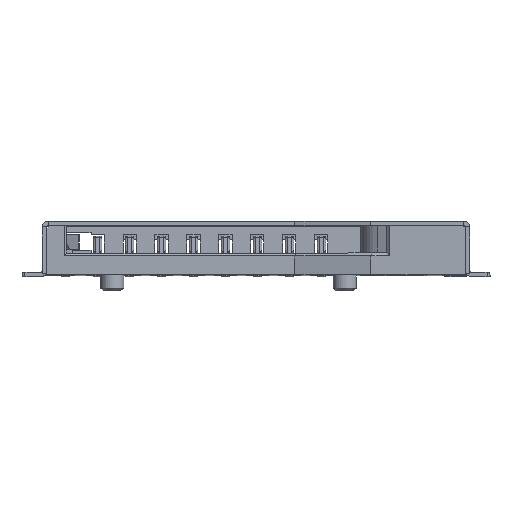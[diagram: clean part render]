
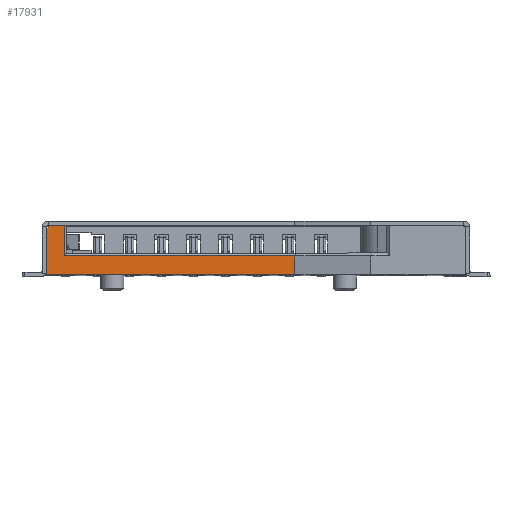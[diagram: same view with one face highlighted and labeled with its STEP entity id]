
A CAD part, top view. The second image highlights one B-rep face of the part: STEP entity #17931.
In plain terms, the highlighted planar face has unit normal (0, 0, 1).
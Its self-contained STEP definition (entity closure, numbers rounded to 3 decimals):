
#653 = LINE ( 'NONE', #9888, #50441 ) ;
#972 = VERTEX_POINT ( 'NONE', #29177 ) ;
#1125 = CARTESIAN_POINT ( 'NONE',  ( 1.338, -0.925, 6.8 ) ) ;
#2169 = LINE ( 'NONE', #35556, #18346 ) ;
#2174 = CARTESIAN_POINT ( 'NONE',  ( -7.1, 0.775, 6.8 ) ) ;
#3131 = VERTEX_POINT ( 'NONE', #39150 ) ;
#3430 = DIRECTION ( 'NONE',  ( -0.707, -0.707, 0. ) ) ;
#4421 = ORIENTED_EDGE ( 'NONE', *, *, #27609, .T. ) ;
#6401 = VERTEX_POINT ( 'NONE', #1125 ) ;
#7537 = CARTESIAN_POINT ( 'NONE',  ( -7.1, 0.775, 6.8 ) ) ;
#8218 = DIRECTION ( 'NONE',  ( 1., 0., 0. ) ) ;
#8930 = CARTESIAN_POINT ( 'NONE',  ( 0., -0.175, 6.8 ) ) ;
#9888 = CARTESIAN_POINT ( 'NONE',  ( -6.505, -0.275, 6.8 ) ) ;
#10378 = VERTEX_POINT ( 'NONE', #38897 ) ;
#11600 = ORIENTED_EDGE ( 'NONE', *, *, #14502, .T. ) ;
#11794 = ORIENTED_EDGE ( 'NONE', *, *, #19185, .T. ) ;
#14386 = DIRECTION ( 'NONE',  ( -1., 0., 0. ) ) ;
#14502 = EDGE_CURVE ( 'NONE', #3131, #33385, #653, .T. ) ;
#15729 = LINE ( 'NONE', #37877, #29134 ) ;
#16650 = DIRECTION ( 'NONE',  ( 0., -1., 0. ) ) ;
#17042 = ORIENTED_EDGE ( 'NONE', *, *, #26426, .T. ) ;
#17120 = VECTOR ( 'NONE', #46379, 1000. ) ;
#17931 = ADVANCED_FACE ( 'NONE', ( #36143 ), #51651, .F. ) ;
#18027 = LINE ( 'NONE', #24689, #40227 ) ;
#18346 = VECTOR ( 'NONE', #35366, 1000. ) ;
#19185 = EDGE_CURVE ( 'NONE', #33385, #972, #44060, .T. ) ;
#19661 = EDGE_CURVE ( 'NONE', #44406, #46638, #41171, .T. ) ;
#20304 = CARTESIAN_POINT ( 'NONE',  ( -7.2, 0.675, 6.8 ) ) ;
#22508 = LINE ( 'NONE', #37900, #17120 ) ;
#24689 = CARTESIAN_POINT ( 'NONE',  ( -7.2, -0.175, 6.8 ) ) ;
#25078 = VECTOR ( 'NONE', #3430, 1000. ) ;
#26426 = EDGE_CURVE ( 'NONE', #46638, #10378, #18027, .T. ) ;
#27609 = EDGE_CURVE ( 'NONE', #10378, #6401, #15729, .T. ) ;
#27820 = EDGE_CURVE ( 'NONE', #3131, #6401, #2169, .T. ) ;
#29134 = VECTOR ( 'NONE', #8218, 1000. ) ;
#29177 = CARTESIAN_POINT ( 'NONE',  ( -6.605, 0.775, 6.8 ) ) ;
#31082 = CARTESIAN_POINT ( 'NONE',  ( -6.605, -0.175, 6.8 ) ) ;
#32565 = VECTOR ( 'NONE', #39594, 1000. ) ;
#33385 = VERTEX_POINT ( 'NONE', #54328 ) ;
#35208 = EDGE_LOOP ( 'NONE', ( #11600, #11794, #41821, #43644, #17042, #4421, #45080 ) ) ;
#35366 = DIRECTION ( 'NONE',  ( 0., -1., 0. ) ) ;
#35495 = EDGE_CURVE ( 'NONE', #44406, #972, #22508, .T. ) ;
#35556 = CARTESIAN_POINT ( 'NONE',  ( 1.338, -0.175, 6.8 ) ) ;
#36143 = FACE_OUTER_BOUND ( 'NONE', #35208, .T. ) ;
#37611 = DIRECTION ( 'NONE',  ( 0., -1., 0. ) ) ;
#37877 = CARTESIAN_POINT ( 'NONE',  ( 0., -0.925, 6.8 ) ) ;
#37900 = CARTESIAN_POINT ( 'NONE',  ( 0., 0.775, 6.8 ) ) ;
#38897 = CARTESIAN_POINT ( 'NONE',  ( -7.2, -0.925, 6.8 ) ) ;
#39150 = CARTESIAN_POINT ( 'NONE',  ( 1.338, -0.275, 6.8 ) ) ;
#39594 = DIRECTION ( 'NONE',  ( 0., 1., 0. ) ) ;
#40033 = AXIS2_PLACEMENT_3D ( 'NONE', #8930, #42377, #16650 ) ;
#40227 = VECTOR ( 'NONE', #37611, 1000. ) ;
#41171 = LINE ( 'NONE', #7537, #25078 ) ;
#41821 = ORIENTED_EDGE ( 'NONE', *, *, #35495, .F. ) ;
#42377 = DIRECTION ( 'NONE',  ( 0., 0., -1. ) ) ;
#43644 = ORIENTED_EDGE ( 'NONE', *, *, #19661, .T. ) ;
#44060 = LINE ( 'NONE', #31082, #32565 ) ;
#44406 = VERTEX_POINT ( 'NONE', #2174 ) ;
#45080 = ORIENTED_EDGE ( 'NONE', *, *, #27820, .F. ) ;
#46379 = DIRECTION ( 'NONE',  ( 1., 0., 0. ) ) ;
#46638 = VERTEX_POINT ( 'NONE', #20304 ) ;
#50441 = VECTOR ( 'NONE', #14386, 1000. ) ;
#51651 = PLANE ( 'NONE',  #40033 ) ;
#54328 = CARTESIAN_POINT ( 'NONE',  ( -6.605, -0.275, 6.8 ) ) ;
